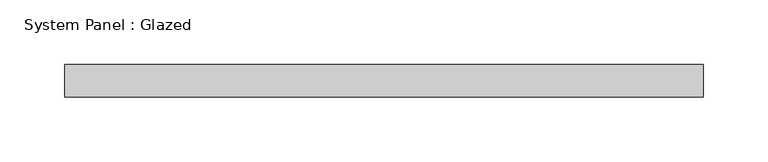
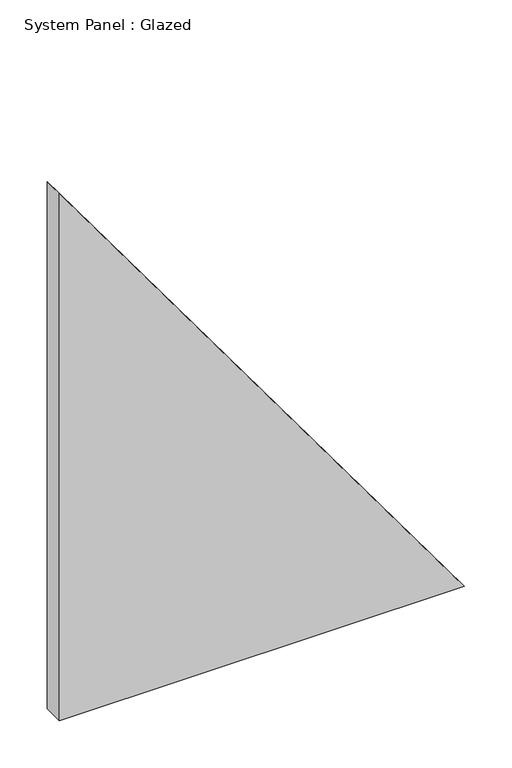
"""IFC4 building model written with IfcOpenShell, lengths in millimetres: plate geometry, System Panel : Glazed."""

from ifc_helpers import new_model, si_unit, frame, origin, place, context, project, spatial, polyline, outline, extrude, source, transform, mapped, element, save


def system_panel_glazed_2d952c79(model_context):
    return source(origin(), model_context, "Body", "SweptSolid", [
        extrude(outline(polyline([(0.0, -246.3115495), (0.0, 246.3115495), (678.037527, -246.3115495), (0.0, -246.3115495)])), frame((0.0, 24.5, 0.0), z_axis=(0.0, 1.0, 0.0), x_axis=(0.0, 0.0, 1.0)), (0.0, 0.0, 1.0), 25.0),
    ])


if __name__ == "__main__":
    model = new_model("IFC4")
    model_context = context("Model", 3, world=origin())
    ifc_project = project(units=[si_unit("LENGTHUNIT", "METRE", prefix="MILLI")], contexts=[model_context])
    site = spatial("IfcSite", under=ifc_project)
    building = spatial("IfcBuilding", under=site)
    placement = place(None, origin())
    system_panel_glazed_shape = system_panel_glazed_2d952c79(model_context)
    element("IfcPlate", 1, ObjectType="System Panel : Glazed", at=placement, inside=building, context=model_context, shape_type="MappedRepresentation", body=[
        mapped(system_panel_glazed_shape, transform((0.0, 0.0, 0.0), x_axis=(1.0, 0.0, 0.0), y_axis=(0.0, 1.0, 0.0), z_axis=(0.0, 0.0, 1.0))),
    ])
    save(model, "model.ifc")
